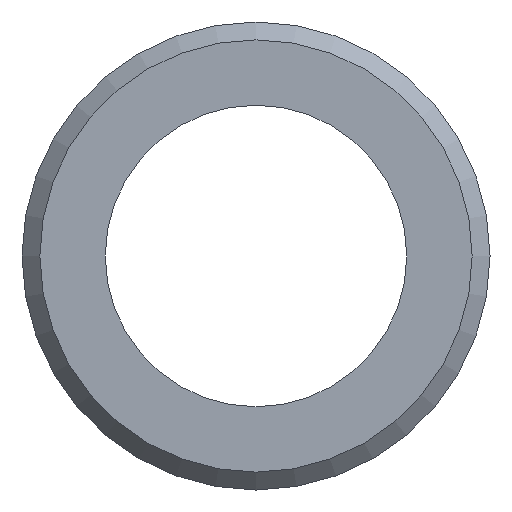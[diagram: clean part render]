
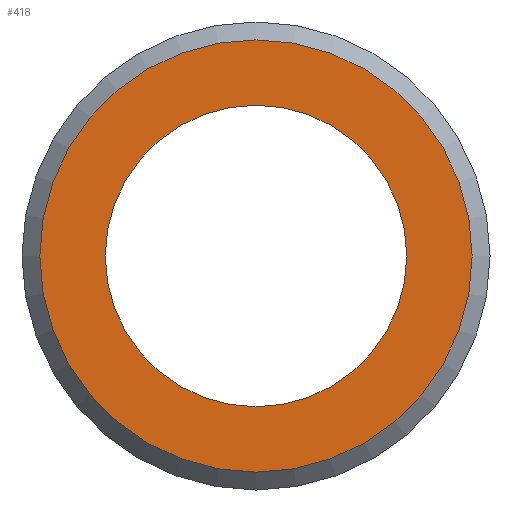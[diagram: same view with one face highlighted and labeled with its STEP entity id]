
A CAD part, left-side view. The second image highlights one B-rep face of the part: STEP entity #418.
In plain terms, the highlighted planar face has unit normal (-1, 0, 0).
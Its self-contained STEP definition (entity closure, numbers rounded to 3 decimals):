
#71=PLANE('',#450);
#97=FACE_BOUND('',#138,.T.);
#108=FACE_OUTER_BOUND('',#137,.T.);
#137=EDGE_LOOP('',(#301));
#138=EDGE_LOOP('',(#302));
#171=CIRCLE('',#446,19.355);
#174=CIRCLE('',#451,13.5);
#197=VERTEX_POINT('',#632);
#200=VERTEX_POINT('',#640);
#239=EDGE_CURVE('',#197,#197,#171,.T.);
#242=EDGE_CURVE('',#200,#200,#174,.T.);
#301=ORIENTED_EDGE('',*,*,#239,.F.);
#302=ORIENTED_EDGE('',*,*,#242,.T.);
#418=ADVANCED_FACE('',(#108,#97),#71,.T.);
#446=AXIS2_PLACEMENT_3D('',#633,#502,#503);
#450=AXIS2_PLACEMENT_3D('',#639,#510,#511);
#451=AXIS2_PLACEMENT_3D('',#641,#512,#513);
#502=DIRECTION('center_axis',(1.,0.,0.));
#503=DIRECTION('ref_axis',(0.,-1.,0.));
#510=DIRECTION('center_axis',(-1.,0.,0.));
#511=DIRECTION('ref_axis',(0.,0.,1.));
#512=DIRECTION('center_axis',(1.,0.,0.));
#513=DIRECTION('ref_axis',(0.,1.,0.));
#632=CARTESIAN_POINT('',(0.,19.355,0.));
#633=CARTESIAN_POINT('Origin',(0.,0.,0.));
#639=CARTESIAN_POINT('Origin',(0.,17.228,0.));
#640=CARTESIAN_POINT('',(0.,13.5,0.));
#641=CARTESIAN_POINT('Origin',(0.,0.,0.));
